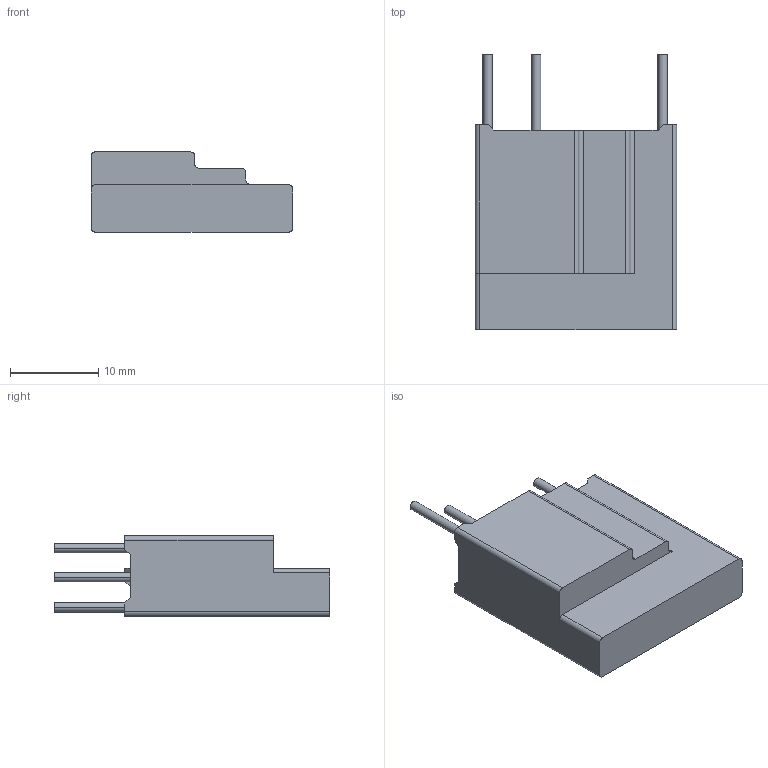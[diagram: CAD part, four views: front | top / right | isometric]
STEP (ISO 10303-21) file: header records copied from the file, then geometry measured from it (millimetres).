
FILE_DESCRIPTION((''),'2;1');
FILE_NAME('20S4201-20200616','2020-06-18T',('set'),(''),'PRO/ENGINEER BY PARAMETRIC TECHNOLOGY CORPORATION, 2012310','PRO/ENGINEER BY PARAMETRIC TECHNOLOGY CORPORATION, 2012310','');
FILE_SCHEMA(('CONFIG_CONTROL_DESIGN','SHAPE_APPEARANCE_LAYERS_GROUPS'));
Length unit declared in the file: millimetre
Products named in the file (1): 20S4201-20200616
Bounding box: 22.8 x 31.2 x 9.1 mm (x, y, z)
Volume: 1276.1 mm3; surface area: 3298.5 mm2
Topology: 1 solids, 2 shells, 104 faces, 289 edges, 192 vertices
Faces by surface type: plane 78, cylinder 26
Entity records: 3359 total; most frequent: CARTESIAN_POINT 585, ORIENTED_EDGE 578, DIRECTION 550, EDGE_CURVE 289, VECTOR 236, LINE 236, VERTEX_POINT 192, AXIS2_PLACEMENT_3D 157
